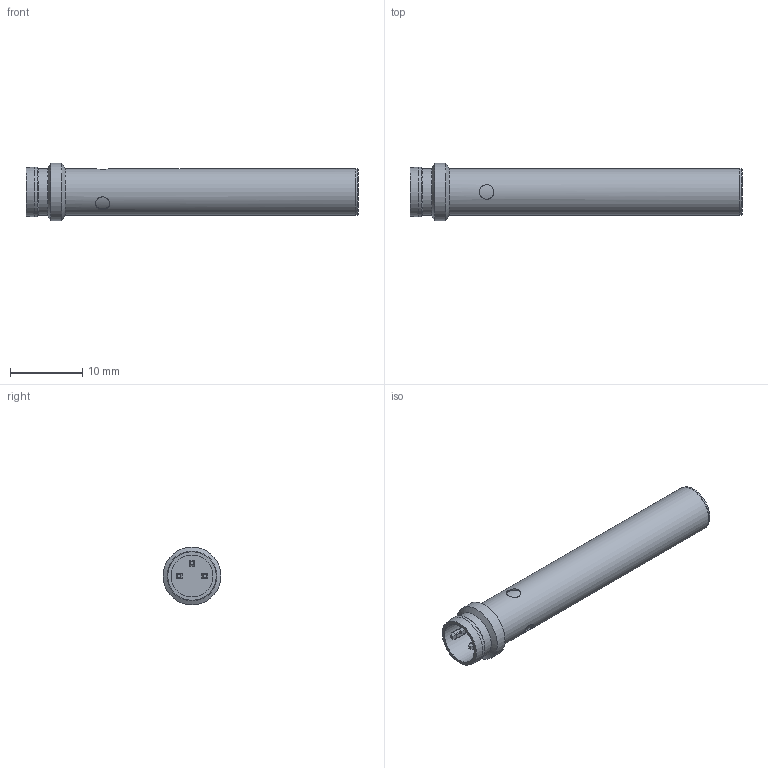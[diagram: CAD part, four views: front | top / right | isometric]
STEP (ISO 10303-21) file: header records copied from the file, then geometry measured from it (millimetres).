
FILE_DESCRIPTION( ( 'Unknown' ), '1' );
FILE_NAME( '//server-file-1/e_me/Solid Edge/Models/Dokumentationen/induktiv/IxRx 06/Vereinfachte Modelle/Neutralformate/IFRM 06xxxA1_S35L.stp', 'Unknown', ( 'Unknown' ), ( 'Unknown' ), 'XStep 1.0', 'Unknown', ' ' );
FILE_SCHEMA( ( 'CONFIG_CONTROL_DESIGN' ) );
Length unit declared in the file: millimetre
Products named in the file (1): 132120
Bounding box: 45.95 x 8 x 8 mm (x, y, z)
Volume: 1437.8 mm3; surface area: 1173 mm2
Topology: 1 solids, 1 shells, 60 faces, 146 edges, 95 vertices
Faces by surface type: plane 31, cylinder 24, cone 5
Full cylindrical faces by diameter (mm): 2 x3, 5.8 x1, 6.4 x1, 6.5 x2, 6.9 x1, 8 x1
Entity records: 1892 total; most frequent: CARTESIAN_POINT 479, DIRECTION 294, ORIENTED_EDGE 256, EDGE_CURVE 128, AXIS2_PLACEMENT_3D 111, VERTEX_POINT 92, EDGE_LOOP 82, LINE 72
